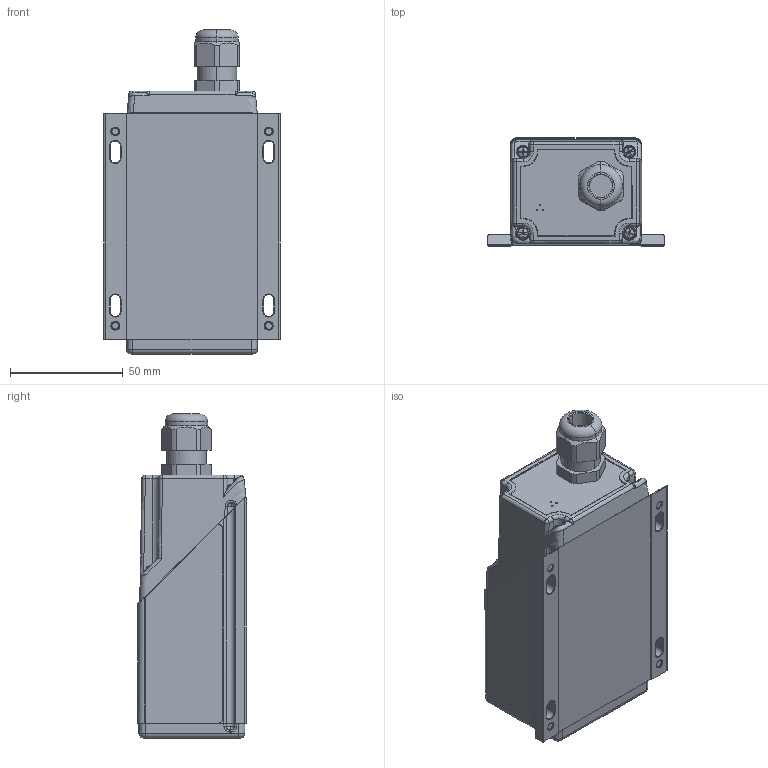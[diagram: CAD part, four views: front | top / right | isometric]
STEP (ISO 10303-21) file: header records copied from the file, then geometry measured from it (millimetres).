
FILE_DESCRIPTION (( 'STEP AP214' ), '1' );
FILE_NAME ('Dimetix_D_Generation.STEP', '2017-09-07T09:59:49', ( '' ), ( '' ), 'SwSTEP 2.0', 'SolidWorks 2014', '' );
FILE_SCHEMA (( 'AUTOMOTIVE_DESIGN' ));
Length unit declared in the file: millimetre
Products named in the file (2): Dimetix_D_Generation
Bounding box: 78 x 47.9 x 143.5 mm (x, y, z)
Surface area: 116247.8 mm2 (no closed solid volume)
Topology: 0 solids, 61 shells, 3639 faces, 9835 edges, 6318 vertices
Faces by surface type: plane 1200, cylinder 903, bspline 780, cone 369, torus 303, sphere 84
Entity records: 181113 total; most frequent: CARTESIAN_POINT 56379, ORIENTED_EDGE 18540, DIRECTION 15809, EDGE_CURVE 9813, VERTEX_POINT 6318, AXIS2_PLACEMENT_3D 5692, LINE 4425, VECTOR 4425
